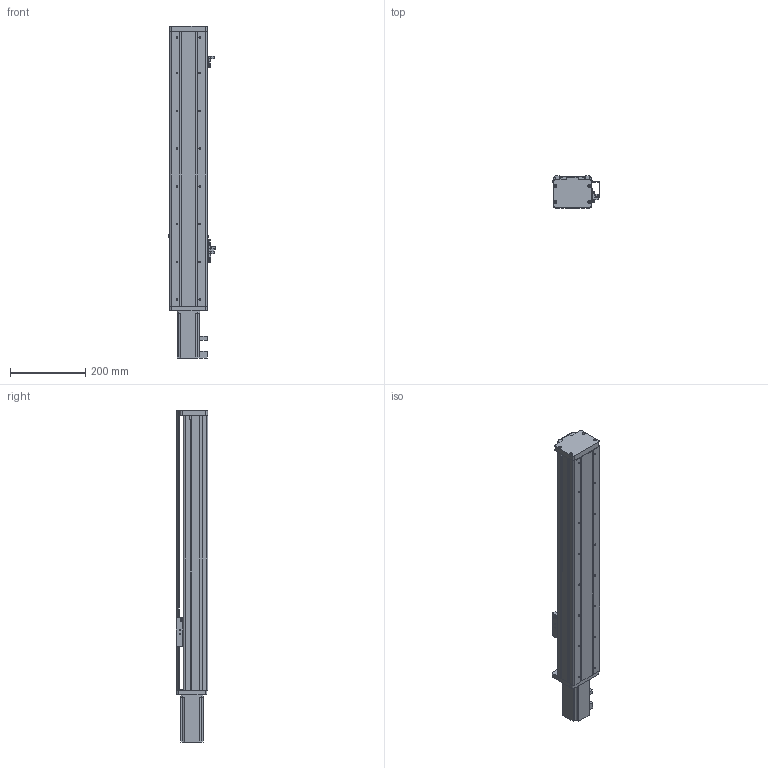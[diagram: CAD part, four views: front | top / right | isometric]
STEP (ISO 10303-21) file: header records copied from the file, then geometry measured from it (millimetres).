
FILE_DESCRIPTION (( 'STEP AP214' ), '1' );
FILE_NAME ('JDBN-100-P10-S500-1.STEP', '2012-06-13T01:08:46', ( 'TIGER-XP' ), ( '888TIGER' ), 'SwSTEP 2.0', 'SolidWorks 2007', '' );
FILE_SCHEMA (( 'AUTOMOTIVE_DESIGN' ));
Length unit declared in the file: millimetre
Products named in the file (1): JDBN-100-P10-S500-1
Bounding box: 125.94 x 84.5 x 880 mm (x, y, z)
Surface area: 431653.2 mm2 (no closed solid volume)
Topology: 0 solids, 29 shells, 491 faces, 1797 edges, 1316 vertices
Faces by surface type: plane 250, cylinder 211, torus 14, cone 12, sphere 4
Entity records: 25167 total; most frequent: CARTESIAN_POINT 3927, DIRECTION 3485, ORIENTED_EDGE 2835, EDGE_CURVE 1797, VERTEX_POINT 1316, AXIS2_PLACEMENT_3D 1228, VECTOR 1029, LINE 1029
